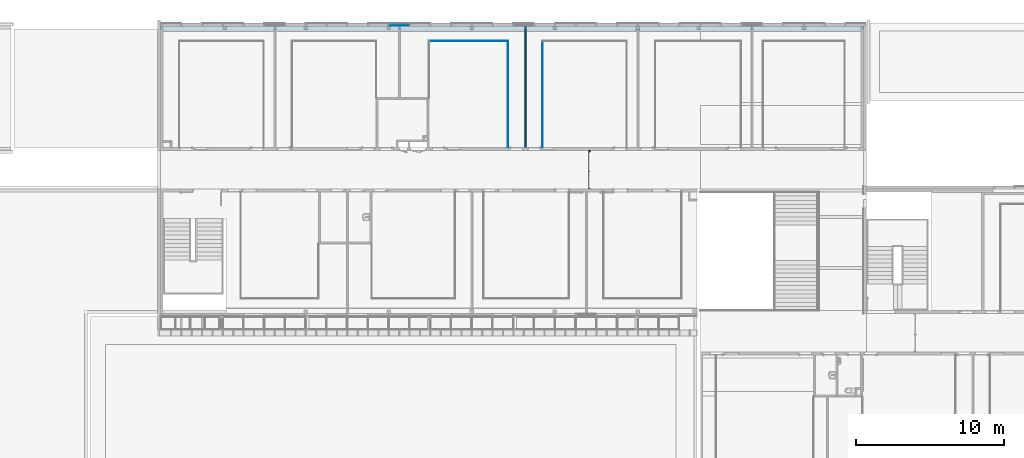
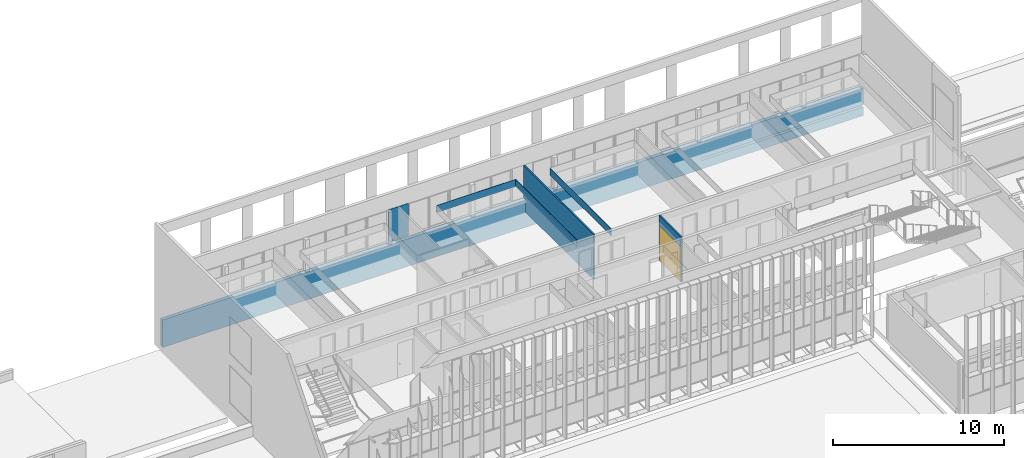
# One storey, part 62 of 106: 8 walls, 1 door, 1 opening.
"""IFC2X3 building model written with IfcOpenShell, lengths in centimetres."""

from ifc_helpers import new_model, entity, si_unit, converted_unit, derived_unit, direction, frame, frame_2d, origin, place, context, subcontext, project, spatial, polyline, rectangle, extrude, clip, bounded_halfspace, faceted_brep, source, transform, mapped, material, material_list, layer, layer_set, layer_usage, type_object, type_shapes, element, fill, save


model = new_model("IFC2X3")

# Units and contexts
model_context = context("Model", 3, precision=0.001, world=origin(), true_north=direction((6.12303176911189e-17, 1.0)))
body_context = subcontext(model_context, "Body", "Model", "MODEL_VIEW")
ifc_project = project(units=[si_unit("LENGTHUNIT", "METRE", prefix="CENTI"), si_unit("AREAUNIT", "SQUARE_METRE"), si_unit("VOLUMEUNIT", "CUBIC_METRE"), converted_unit("PLANEANGLEUNIT", "DEGREE", entity("IfcRatioMeasure", 0.0174532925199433), si_unit("PLANEANGLEUNIT", "RADIAN"), dimensions=[0, 0, 0, 0, 0, 0, 0]), si_unit("MASSUNIT", "GRAM", prefix="KILO"), derived_unit("MASSDENSITYUNIT", [(si_unit("MASSUNIT", "GRAM", prefix="KILO"), 1), (si_unit("LENGTHUNIT", "METRE"), -3)]), si_unit("TIMEUNIT", "SECOND"), si_unit("FREQUENCYUNIT", "HERTZ"), si_unit("THERMODYNAMICTEMPERATUREUNIT", "DEGREE_CELSIUS"), derived_unit("THERMALTRANSMITTANCEUNIT", [(si_unit("MASSUNIT", "GRAM", prefix="KILO"), 1), (si_unit("THERMODYNAMICTEMPERATUREUNIT", "KELVIN"), -1), (si_unit("TIMEUNIT", "SECOND"), -3)]), derived_unit("VOLUMETRICFLOWRATEUNIT", [(si_unit("LENGTHUNIT", "METRE"), 3), (si_unit("TIMEUNIT", "SECOND"), -1)]), si_unit("ELECTRICCURRENTUNIT", "AMPERE"), si_unit("ELECTRICVOLTAGEUNIT", "VOLT"), si_unit("POWERUNIT", "WATT"), si_unit("FORCEUNIT", "NEWTON", prefix="KILO"), si_unit("ILLUMINANCEUNIT", "LUX"), si_unit("LUMINOUSFLUXUNIT", "LUMEN"), si_unit("LUMINOUSINTENSITYUNIT", "CANDELA"), derived_unit("USERDEFINED", [(si_unit("MASSUNIT", "GRAM", prefix="KILO"), -1), (si_unit("LENGTHUNIT", "METRE"), -2), (si_unit("TIMEUNIT", "SECOND"), 3), (si_unit("LUMINOUSFLUXUNIT", "LUMEN"), 1)]), derived_unit("LINEARVELOCITYUNIT", [(si_unit("LENGTHUNIT", "METRE"), 1), (si_unit("TIMEUNIT", "SECOND"), -1)]), si_unit("PRESSUREUNIT", "PASCAL"), derived_unit("USERDEFINED", [(si_unit("LENGTHUNIT", "METRE"), -2), (si_unit("MASSUNIT", "GRAM", prefix="KILO"), 1), (si_unit("TIMEUNIT", "SECOND"), -2)])], contexts=[model_context])

# Site, building, storey
site_placement = place(None, frame((-2781.94577612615, 7442.24238424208, 0.0)))
site = spatial("IfcSite", under=ifc_project, at=site_placement, Name="Default", CompositionType="ELEMENT")
building_placement = place(site_placement, origin())
building = spatial("IfcBuilding", under=site, at=building_placement, CompositionType="ELEMENT")
storey_placement = place(building_placement, frame((0.0, 0.0, 422.0)))
storey = spatial("IfcBuildingStorey", under=building, at=storey_placement, Name="Toiture - Cuisine", CompositionType="ELEMENT", Elevation=421.999999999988)

# Walls
ifc_material_1 = material(Name="01 - Maçonnerie")
ifc_layer_1 = layer(ifc_material_1, 25.0)
ifc_layer_set_1 = layer_set([ifc_layer_1], Name="Mur de base:04 - Structure - béton - 25cm")
ifc_layer_usage_1 = layer_usage(ifc_layer_set_1, "AXIS2", "NEGATIVE", 12.5)
wall_type_1 = type_object("IfcWallType", Name="Mur de base:04 - Structure - béton - 25cm", PredefinedType="STANDARD", material=ifc_layer_set_1)
wall_1_placement = place(building_placement, frame((-8409.49987766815, -2.49999999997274, 313.0)))
element("IfcWallStandardCase", 1, at=wall_1_placement, inside=storey, type_object=wall_type_1, material=ifc_layer_usage_1, Name="Mur de base:04 - Structure - béton - 25cm", ObjectType="Mur de base:04 - Structure - béton - 25cm", context=body_context, shape_type="Clipping", body=[
    clip(extrude(rectangle(XDim=4741.49999798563, YDim=25.0, at=frame_2d((2370.74999899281, 0.0), x_axis=(-1.0, 0.0))), origin(), (0.0, 0.0, 1.0), 197.0), bounded_halfspace(frame((3641.50000006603, -12.4999999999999, 62.0), z_axis=(-1.0, 0.0, 0.0), x_axis=(0.0, 0.0, 1.0)), True, frame((3641.50000006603, -12.4999999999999, 62.0), z_axis=(-1.0, 0.0, 0.0), x_axis=(0.0, 0.0, 1.0)), polyline([(0.0, 0.0), (16.0, 0.0), (16.0, 25.0), (0.0, 25.0), (0.0, 0.0)]))),
])
ifc_material_2 = material(Name="01 - Enduit/Plâtre")
ifc_layer_2 = layer(ifc_material_2, 1.3)
ifc_material_3 = material(Name="00 - Isolant")
ifc_layer_3 = layer(ifc_material_3, 7.4)
ifc_layer_4 = layer(ifc_material_2, 1.3)
ifc_layer_set_2 = layer_set([ifc_layer_2, ifc_layer_3, ifc_layer_4], Name="Mur de base:06 - cloisons - Ba13 10cm")
ifc_layer_usage_2 = layer_usage(ifc_layer_set_2, "AXIS2", "NEGATIVE", 5.0)
wall_type_2 = type_object("IfcWallType", Name="Mur de base:06 - cloisons - Ba13 10cm", PredefinedType="STANDARD", material=ifc_layer_set_2)
wall_2_placement = place(building_placement, frame((-5948.79987968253, 10.0, 422.0), z_axis=(0.0, 0.0, 1.0), x_axis=(0.0, -1.0, 0.0)))
element("IfcWallStandardCase", 2, at=wall_2_placement, inside=storey, type_object=wall_type_2, material=ifc_layer_usage_2, Name="Mur de base:06 - cloisons - Ba13 10cm", ObjectType="Mur de base:06 - cloisons - Ba13 10cm", context=body_context, shape_type="Clipping", body=[
    clip(extrude(rectangle(XDim=820.048500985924, YDim=9.99999999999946, at=frame_2d((410.024250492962, 1.11022302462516e-14), x_axis=(-1.0, 0.0))), origin(), (0.0, 0.0, 1.0), 321.0), bounded_halfspace(frame((20.0, -5.0, 321.0), z_axis=(0.0, 0.0, -1.0), x_axis=(-1.0, 0.0, 0.0)), True, frame((20.0, -5.0, 321.0)), polyline([(0.0, 0.0), (800.048500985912, 0.0), (800.048500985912, 10.0), (0.0, 10.0), (0.0, 0.0)]))),
])

# Wall, opening, door
ifc_layer_usage_3 = layer_usage(ifc_layer_set_2, "AXIS2", "NEGATIVE", 5.0)
wall_3_placement = place(building_placement, frame((-5516.99987760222, -1090.0, 422.0), z_axis=(0.0, 0.0, 1.0), x_axis=(0.0, 1.0, 0.0)))
wall_3 = element("IfcWallStandardCase", 3, at=wall_3_placement, inside=storey, type_object=wall_type_2, material=ifc_layer_usage_3, Name="Mur de base:06 - cloisons - Ba13 10cm", ObjectType="Mur de base:06 - cloisons - Ba13 10cm", context=body_context, shape_type="SweptSolid", body=[
    extrude(rectangle(XDim=259.951498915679, YDim=9.99999999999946, at=frame_2d((129.97574945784, 0.0), x_axis=(-1.0, 0.0))), origin(), (0.0, 0.0, 1.0), 321.0),
])
opening_placement = place(wall_3_placement, frame((1.50000009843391, -5.0, 0.0)))
opening = element("IfcOpeningElement", 4, at=opening_placement, cuts=wall_3, Name="Int. Double:PV (2.50m x 2.04m):1", ObjectType="Opening", context=body_context, shape_type="SweptSolid", body=[
    extrude(rectangle(XDim=248.500000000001, YDim=250.0, at=frame_2d((124.250000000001, 125.0), x_axis=(1.0, 0.0))), frame((0.0, 0.0, 0.0), z_axis=(0.0, 1.0, 0.0), x_axis=(0.0, 0.0, 1.0)), (0.0, 0.0, 1.0), 10.0),
])
ifc_material_4 = material(Name="Bois - Panneau de porte")
ifc_material_5 = material(Name="Finition Peinture - Blanc satiné")
ifc_material_6 = material(Name="Bois - Cadre de porte")
ifc_material_list_1 = material_list([ifc_material_4, ifc_material_5, ifc_material_6])
ifc_material_list_2 = material_list([ifc_material_4, ifc_material_5, ifc_material_6])
door_style = type_object("IfcDoorStyle", Name="PV (2.50m x 2.04m)", ConstructionType="NOTDEFINED", OperationType="DOUBLE_DOOR_SINGLE_SWING", ParameterTakesPrecedence=False, Sizeable=False, material=ifc_material_list_2)
shared_shape = source(origin(), body_context, "Body", "Brep", [
    faceted_brep([(125.0, 4.0, 245.0), (125.0, 4.0, 0.0), (3.50000000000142, 4.0, 0.0), (3.50000000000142, 4.0, 245.0), (125.0, 0.0, 245.0), (3.50000000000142, 0.0, 245.0), (3.50000000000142, 0.0, 0.0), (125.0, 0.0, 0.0)], [[[0, 1, 2, 3]], [[4, 5, 6, 7]], [[3, 5, 4, 0]], [[2, 6, 5, 3]], [[1, 7, 6, 2]], [[0, 4, 7, 1]]]),
    faceted_brep([(132.035276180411, -0.500000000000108, 86.6003983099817), (133.0, -0.500000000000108, 87.0), (133.0, -0.500000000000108, 108.0), (132.035276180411, -0.500000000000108, 108.399601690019), (131.0, -0.500000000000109, 108.535898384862), (129.964723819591, -0.500000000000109, 108.399601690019), (129.0, -0.50000000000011, 108.0), (129.0, -0.50000000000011, 87.0), (129.964723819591, -0.500000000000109, 86.6003983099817), (131.0, -0.500000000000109, 86.464101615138), (132.035276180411, 0.0, 108.399601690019), (133.0, 0.0, 108.0), (133.0, 0.0, 87.0), (132.035276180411, 0.0, 86.6003983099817), (131.0, 0.0, 86.464101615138), (129.964723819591, 0.0, 86.6003983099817), (129.0, 0.0, 87.0), (129.0, 0.0, 108.0), (129.964723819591, 0.0, 108.399601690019), (131.0, 0.0, 108.535898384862)], [[[0, 1, 2, 3, 4, 5, 6, 7, 8, 9]], [[10, 11, 12, 13, 14, 15, 16, 17, 18, 19]], [[16, 15, 8, 7]], [[8, 15, 14, 9]], [[14, 13, 0, 9]], [[13, 12, 1, 0]], [[2, 1, 12, 11]], [[11, 10, 3, 2]], [[3, 10, 19, 4]], [[19, 18, 5, 4]], [[18, 17, 6, 5]], [[7, 6, 17, 16]]]),
    faceted_brep([(132.035276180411, 4.0, 86.6003983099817), (133.0, 4.0, 87.0), (133.0, 4.0, 108.0), (132.035276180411, 4.0, 108.399601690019), (131.0, 4.0, 108.535898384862), (129.964723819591, 4.0, 108.399601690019), (129.0, 4.0, 108.0), (129.0, 4.0, 87.0), (129.964723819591, 4.0, 86.6003983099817), (131.0, 4.0, 86.464101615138), (132.035276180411, 4.49999999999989, 108.399601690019), (133.0, 4.49999999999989, 108.0), (133.0, 4.49999999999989, 87.0), (132.035276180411, 4.49999999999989, 86.6003983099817), (131.0, 4.49999999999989, 86.464101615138), (129.964723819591, 4.49999999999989, 86.6003983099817), (129.0, 4.49999999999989, 87.0), (129.0, 4.49999999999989, 108.0), (129.964723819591, 4.49999999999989, 108.399601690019), (131.0, 4.49999999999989, 108.535898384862)], [[[0, 1, 2, 3, 4, 5, 6, 7, 8, 9]], [[10, 11, 12, 13, 14, 15, 16, 17, 18, 19]], [[11, 10, 3, 2]], [[3, 10, 19, 4]], [[19, 18, 5, 4]], [[18, 17, 6, 5]], [[7, 6, 17, 16]], [[16, 15, 8, 7]], [[8, 15, 14, 9]], [[14, 13, 0, 9]], [[13, 12, 1, 0]], [[2, 1, 12, 11]]]),
    faceted_brep([(130.797470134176, -0.500000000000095, 100.778044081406), (131.202529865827, -0.500000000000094, 100.778044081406), (131.600000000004, -0.500000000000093, 100.699999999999), (131.600000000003, -0.500000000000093, 99.3000000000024), (131.202529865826, -0.500000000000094, 99.2219559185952), (130.797470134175, -0.500000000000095, 99.221955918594), (130.399999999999, -0.500000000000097, 99.2999999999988), (130.399999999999, -0.500000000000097, 100.7), (130.399999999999, -3.26509507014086, 100.7), (130.797470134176, -3.10045754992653, 100.778044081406), (132.402358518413, -4.70534593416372, 100.778044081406), (132.570139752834, -4.30028620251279, 100.778044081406), (131.202529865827, -2.93267631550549, 100.778044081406), (131.600000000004, -2.76803879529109, 100.7), (131.600000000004, -2.76803879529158, 99.3000000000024), (131.202529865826, -2.93267631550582, 99.2219559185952), (132.570139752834, -4.30028620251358, 99.2219559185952), (132.402358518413, -4.7053459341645, 99.221955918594), (130.797470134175, -3.10045754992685, 99.221955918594), (130.399999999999, -3.26509507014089, 99.2999999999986), (132.237720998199, -5.10281606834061, 100.7), (132.734777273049, -3.90281606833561, 100.7), (132.734777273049, -3.90281606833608, 99.3000000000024), (132.237720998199, -5.10281606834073, 99.2999999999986), (141.001864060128, -5.10281606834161, 99.2999999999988), (141.001864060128, -4.70534593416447, 99.221955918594), (141.001864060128, -4.30028620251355, 99.2219559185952), (141.001864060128, -3.9028160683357, 99.3000000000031), (141.001864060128, -3.90281606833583, 100.7), (141.001864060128, -4.30028620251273, 100.778044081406), (141.001864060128, -4.70534593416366, 100.778044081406), (141.001864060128, -5.10281606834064, 100.699999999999), (136.230769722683, -5.10281606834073, 100.7), (136.78600190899, -4.50281606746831, 100.78786867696), (136.868320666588, -3.9028160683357, 100.7), (136.868320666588, -3.9028160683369, 99.3000000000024), (136.786001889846, -4.50281607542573, 99.2121313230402), (136.230770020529, -5.10281606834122, 99.2999999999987)], [[[0, 1, 2, 3, 4, 5, 6, 7]], [[8, 9, 0, 7]], [[9, 10, 11, 12, 1, 0]], [[12, 13, 2, 1]], [[3, 2, 13, 14]], [[14, 15, 4, 3]], [[15, 16, 17, 18, 5, 4]], [[18, 19, 6, 5]], [[7, 6, 19, 8]], [[20, 10, 9, 8]], [[11, 21, 13, 12]], [[14, 13, 21, 22]], [[22, 16, 15, 14]], [[17, 23, 19, 18]], [[8, 19, 23, 20]], [[24, 25, 26, 27, 28, 29, 30, 31]], [[32, 30, 33]], [[31, 30, 32]], [[10, 20, 32]], [[33, 34, 11]], [[21, 11, 34]], [[34, 29, 28]], [[30, 29, 33]], [[29, 34, 33]], [[10, 32, 33]], [[10, 33, 11]], [[22, 21, 34, 28, 27, 35]], [[35, 26, 36]], [[37, 36, 25]], [[22, 35, 16]], [[35, 27, 26]], [[24, 37, 25]], [[23, 17, 37]], [[37, 17, 36]], [[17, 16, 36]], [[16, 35, 36]], [[25, 36, 26]], [[20, 23, 37, 24, 31, 32]]]),
    faceted_brep([(130.797470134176, 4.4999999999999, 100.778044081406), (130.399999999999, 4.4999999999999, 100.7), (130.399999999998, 4.4999999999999, 99.2999999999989), (130.797470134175, 4.4999999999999, 99.221955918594), (131.202529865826, 4.4999999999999, 99.2219559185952), (131.600000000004, 4.49999999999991, 99.3000000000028), (131.600000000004, 4.49999999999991, 100.7), (131.202529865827, 4.4999999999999, 100.778044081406), (131.600000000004, 6.7485204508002, 99.3000000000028), (131.600000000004, 6.74852045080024, 100.7), (131.202529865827, 6.91315797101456, 100.778044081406), (132.583890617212, 8.29451872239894, 100.778044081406), (132.416109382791, 8.69957845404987, 100.778044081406), (130.797470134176, 7.08093920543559, 100.778044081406), (130.399999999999, 7.24557672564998, 100.7), (130.399999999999, 7.2455767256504, 99.2999999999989), (130.797470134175, 7.08093920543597, 99.221955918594), (132.41610938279, 8.69957845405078, 99.221955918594), (132.583890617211, 8.29451872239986, 99.2219559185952), (131.202529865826, 6.91315797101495, 99.2219559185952), (132.748528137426, 7.89704858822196, 99.3000000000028), (132.748528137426, 7.89704858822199, 100.7), (132.251471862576, 9.09704858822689, 100.7), (132.251471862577, 9.0970485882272, 99.2999999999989), (141.004578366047, 7.89704858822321, 99.3000000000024), (141.004578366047, 8.29451872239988, 99.2219559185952), (141.004578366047, 8.6995784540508, 99.221955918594), (141.004578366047, 9.09704858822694, 99.2999999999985), (141.004578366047, 9.09704858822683, 100.7), (141.004578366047, 8.69957845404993, 100.778044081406), (141.004578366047, 8.294518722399, 100.778044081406), (141.004578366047, 7.89704858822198, 100.7), (136.876552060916, 7.89704858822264, 99.3000000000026), (136.876553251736, 7.89704858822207, 100.7), (136.794234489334, 8.49704858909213, 100.78786867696), (136.244520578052, 9.09704858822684, 100.7), (136.244520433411, 9.09704858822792, 99.2999999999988), (136.794234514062, 8.49704858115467, 99.2121313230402)], [[[0, 1, 2, 3, 4, 5, 6, 7]], [[6, 5, 8, 9]], [[9, 10, 7, 6]], [[10, 11, 12, 13, 0, 7]], [[13, 14, 1, 0]], [[2, 1, 14, 15]], [[15, 16, 3, 2]], [[16, 17, 18, 19, 4, 3]], [[19, 8, 5, 4]], [[9, 8, 20, 21]], [[21, 11, 10, 9]], [[12, 22, 14, 13]], [[15, 14, 22, 23]], [[23, 17, 16, 15]], [[18, 20, 8, 19]], [[24, 25, 26, 27, 28, 29, 30, 31]], [[21, 20, 32, 24, 31, 33]], [[33, 30, 34]], [[35, 34, 29]], [[21, 33, 11]], [[33, 31, 30]], [[28, 35, 29]], [[22, 12, 35]], [[35, 12, 34]], [[12, 11, 34]], [[11, 33, 34]], [[29, 34, 30]], [[22, 35, 28, 27, 36, 23]], [[36, 26, 37]], [[27, 26, 36]], [[17, 23, 36]], [[37, 32, 18]], [[20, 18, 32]], [[32, 25, 24]], [[26, 25, 37]], [[25, 32, 37]], [[17, 36, 37]], [[17, 37, 18]]]),
    faceted_brep([(125.0, 4.0, 245.0), (246.500000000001, 4.0, 245.0), (246.500000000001, 4.0, 0.0), (125.0, 4.0, 0.0), (125.0, 0.0, 245.0), (125.0, 0.0, 0.0), (246.500000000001, 0.0, 0.0), (246.500000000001, 0.0, 245.0)], [[[0, 1, 2, 3]], [[4, 5, 6, 7]], [[1, 0, 4, 7]], [[2, 1, 7, 6]], [[3, 2, 6, 5]], [[0, 3, 5, 4]]]),
    faceted_brep([(0.0, 0.0, 0.0), (0.0, 10.0, 0.0), (5.0, 10.0, 0.0), (5.0, 4.0, 0.0), (3.50000000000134, 4.0, 0.0), (3.50000000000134, 0.0, 0.0), (0.0, 0.0, 248.500000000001), (0.0, 10.0, 248.500000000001), (250.0, 10.0, 248.500000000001), (250.0, 10.0, 0.0), (245.0, 10.0, 0.0), (245.0, 10.0, 243.5), (5.0, 10.0, 243.5), (5.0, 4.0, 243.5), (245.0, 4.0, 243.5), (245.0, 4.0, 0.0), (246.499999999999, 4.0, 0.0), (246.499999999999, 4.0, 245.0), (3.50000000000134, 4.0, 245.0), (3.50000000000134, 0.0, 245.0), (246.499999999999, 0.0, 245.0), (246.499999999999, 0.0, 0.0), (250.0, 0.0, 0.0), (250.0, 0.0, 248.500000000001)], [[[0, 1, 2, 3, 4, 5]], [[1, 0, 6, 7]], [[2, 1, 7, 8, 9, 10, 11, 12]], [[3, 2, 12, 13]], [[4, 3, 13, 14, 15, 16, 17, 18]], [[5, 4, 18, 19]], [[0, 5, 19, 20, 21, 22, 23, 6]], [[8, 23, 22, 9]], [[22, 21, 16, 15, 10, 9]], [[14, 11, 10, 15]], [[20, 17, 16, 21]], [[7, 6, 23, 8]], [[13, 12, 11, 14]], [[19, 18, 17, 20]]]),
    faceted_brep([(1.50000000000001, 10.0, 0.0), (-1.50000000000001, 10.0, 0.0), (-1.50000000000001, 10.5000000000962, 0.0), (1.50000000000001, 10.5000000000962, 0.0), (1.49999999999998, 10.0, 247.0), (248.5, 10.0, 247.0), (248.5, 10.0, 0.0), (251.5, 10.0, 0.0), (251.5, 10.0, 250.0), (-1.50000000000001, 10.0, 250.0), (-1.50000000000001, 10.5000000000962, 250.0), (251.5, 10.5000000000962, 250.0), (251.5, 10.5000000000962, 0.0), (248.5, 10.5000000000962, 0.0), (248.5, 10.5000000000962, 247.0), (1.50000000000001, 10.5000000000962, 247.0)], [[[0, 1, 2, 3]], [[1, 0, 4, 5, 6, 7, 8, 9]], [[2, 1, 9, 10]], [[3, 2, 10, 11, 12, 13, 14, 15]], [[0, 3, 15, 4]], [[5, 14, 13, 6]], [[6, 13, 12, 7]], [[11, 8, 7, 12]], [[10, 9, 8, 11]], [[4, 15, 14, 5]]]),
    faceted_brep([(-1.50000000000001, -0.500000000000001, 0.0), (1.50000000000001, -0.500000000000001, 0.0), (1.49999999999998, -0.500000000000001, 247.0), (248.5, -0.500000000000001, 247.0), (248.5, -0.500000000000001, 0.0), (251.5, -0.500000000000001, 0.0), (251.5, -0.500000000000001, 250.0), (-1.50000000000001, -0.500000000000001, 250.0), (-1.50000000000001, 0.0, 0.0), (-1.50000000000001, 0.0, 250.0), (1.50000000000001, 0.0, 0.0), (251.5, 0.0, 250.0), (251.5, 0.0, 0.0), (248.5, 0.0, 0.0), (248.5, 0.0, 247.0), (1.50000000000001, 0.0, 247.0)], [[[0, 1, 2, 3, 4, 5, 6, 7]], [[8, 0, 7, 9]], [[10, 8, 9, 11, 12, 13, 14, 15]], [[1, 10, 15, 2]], [[3, 14, 13, 4]], [[11, 6, 5, 12]], [[9, 7, 6, 11]], [[2, 15, 14, 3]], [[4, 13, 12, 5]], [[1, 0, 8, 10]]]),
])
type_shapes(door_style, [shared_shape])
door_placement = place(opening_placement, frame((250.0, 10.0, 0.0), z_axis=(0.0, 0.0, 1.0), x_axis=(-1.0, 0.0, 0.0)))
door = element("IfcDoor", 5, at=door_placement, inside=storey, type_object=door_style, material=ifc_material_list_1, Name="Int. Double:PV (2.50m x 2.04m)", ObjectType="Int. Double:PV (2.50m x 2.04m)", OverallHeight=248.500000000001, OverallWidth=250.0, context=body_context, shape_type="MappedRepresentation", body=[
    mapped(shared_shape, transform((0.0, 0.0, 0.0), scale=1.0)),
])
fill(opening, door)

# Walls
ifc_layer_5 = layer(ifc_material_2, 1.3)
ifc_material_7 = material(Name="00 - VIDE D'AIR")
ifc_layer_6 = layer(ifc_material_7, 0.7)
ifc_layer_set_3 = layer_set([ifc_layer_5, ifc_layer_6], Name="Mur de base:06 - habillage Ba13 collée 2cm")
ifc_layer_usage_4 = layer_usage(ifc_layer_set_3, "AXIS2", "POSITIVE", -1.0)
wall_type_3 = type_object("IfcWallType", Name="Mur de base:06 - habillage Ba13 collée 2cm", PredefinedType="STANDARD", material=ifc_layer_set_3)
wall_4_placement = place(building_placement, frame((-6063.79987968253, -91.0, 692.0), z_axis=(0.0, 0.0, 1.0), x_axis=(-1.0, 0.0, 0.0)))
element("IfcWallStandardCase", 6, at=wall_4_placement, inside=storey, type_object=wall_type_3, material=ifc_layer_usage_4, Name="Mur de base:06 - habillage Ba13 collée 2cm", ObjectType="Mur de base:06 - habillage Ba13 collée 2cm", context=body_context, shape_type="Clipping", body=[
    clip(extrude(rectangle(XDim=536.0, YDim=2.00000000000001, at=frame_2d((268.0, -2.22044604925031e-16), x_axis=(-1.0, 0.0))), origin(), (0.0, 0.0, 1.0), 50.9999999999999), bounded_halfspace(frame((0.0, -1.0, 51.0), z_axis=(0.0, 0.0, -1.0), x_axis=(0.0, -1.0, 0.0)), True, frame((0.0, -1.0, 51.0)), polyline([(0.0, 0.0), (536.0, 0.0), (536.0, 2.0), (534.0, 2.0), (2.0, 2.0), (0.0, 2.0), (0.0, 0.0)]))),
])
ifc_layer_usage_5 = layer_usage(ifc_layer_set_3, "AXIS2", "POSITIVE", -1.0)
wall_5_placement = place(building_placement, frame((-5832.79987968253, -92.0, 692.0), z_axis=(0.0, 0.0, 1.0), x_axis=(0.0, -1.0, 0.0)))
element("IfcWallStandardCase", 7, at=wall_5_placement, inside=storey, type_object=wall_type_3, material=ifc_layer_usage_5, Name="Mur de base:06 - habillage Ba13 collée 2cm", ObjectType="Mur de base:06 - habillage Ba13 collée 2cm", context=body_context, shape_type="Clipping", body=[
    clip(extrude(rectangle(XDim=718.048500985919, YDim=1.99999999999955, at=frame_2d((359.02425049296, -5.93969318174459e-15), x_axis=(-1.0, 0.0))), origin(), (0.0, 0.0, 1.0), 50.9999999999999), bounded_halfspace(frame((0.0, -1.0, 51.0), z_axis=(0.0, 0.0, -1.0), x_axis=(-1.0, 0.0, 0.0)), True, frame((0.0, -1.0, 51.0)), polyline([(0.0, 0.0), (718.048500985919, 0.0), (718.048500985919, 2.0), (0.0, 2.0), (0.0, 0.0)]))),
])
ifc_layer_usage_6 = layer_usage(ifc_layer_set_3, "AXIS2", "POSITIVE", -1.0)
wall_6_placement = place(building_placement, frame((-6064.79987968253, -810.0485009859, 692.0), z_axis=(0.0, 0.0, 1.0), x_axis=(0.0, 1.0, 0.0)))
element("IfcWallStandardCase", 8, at=wall_6_placement, inside=storey, type_object=wall_type_3, material=ifc_layer_usage_6, Name="Mur de base:06 - habillage Ba13 collée 2cm", ObjectType="Mur de base:06 - habillage Ba13 collée 2cm", context=body_context, shape_type="Clipping", body=[
    clip(extrude(rectangle(XDim=718.048500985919, YDim=1.99999999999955, at=frame_2d((359.02425049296, 2.07722727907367e-13), x_axis=(-1.0, 0.0))), origin(), (0.0, 0.0, 1.0), 50.9999999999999), bounded_halfspace(frame((0.0, -1.0, 51.0), z_axis=(0.0, 0.0, -1.0), x_axis=(1.0, 0.0, 0.0)), True, frame((0.0, -1.0, 51.0)), polyline([(0.0, 0.0), (718.048500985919, 0.0), (718.048500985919, 2.0), (0.0, 2.0), (0.0, 0.0)]))),
])
ifc_material_8 = material(Name="Métal déployé")
ifc_layer_7 = layer(ifc_material_8, 0.3)
ifc_material_9 = material(Name="Métal - Alu brossé")
ifc_layer_8 = layer(ifc_material_9, 1.7)
ifc_layer_set_4 = layer_set([ifc_layer_7, ifc_layer_8], Name="Mur de base:07 -Tôle alu sur CP")
ifc_layer_usage_7 = layer_usage(ifc_layer_set_4, "AXIS2", "NEGATIVE", 1.0)
wall_type_4 = type_object("IfcWallType", Name="Mur de base:07 -Tôle alu sur CP", PredefinedType="STANDARD", material=ifc_layer_set_4)
wall_7_placement = place(building_placement, frame((-6732.75004159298, 11.7000000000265, 512.0), z_axis=(0.0, 0.0, 1.0), x_axis=(-1.0, 0.0, 0.0)))
element("IfcWallStandardCase", 9, at=wall_7_placement, inside=storey, type_object=wall_type_4, material=ifc_layer_usage_7, Name="Mur de base:07 -Tôle alu sur CP", ObjectType="Mur de base:07 -Tôle alu sur CP", context=body_context, shape_type="SweptSolid", body=[
    extrude(rectangle(XDim=133.5, YDim=2.0, at=frame_2d((66.75, 0.0), x_axis=(-1.0, 0.0))), origin(), (0.0, 0.0, 1.0), 231.0),
])
ifc_layer_9 = layer(ifc_material_8, 0.3)
ifc_material_10 = material(Name="00 - Isolant polystyrène")
ifc_layer_10 = layer(ifc_material_10, 4.0)
ifc_layer_set_5 = layer_set([ifc_layer_9, ifc_layer_10], Name="Mur de base:07 -Tôle alu Shadowbox")
ifc_layer_usage_8 = layer_usage(ifc_layer_set_5, "AXIS2", "POSITIVE", -2.15)
wall_type_5 = type_object("IfcWallType", Name="Mur de base:07 -Tôle alu Shadowbox", PredefinedType="STANDARD", material=ifc_layer_set_5)
wall_8_placement = place(building_placement, frame((-6732.75004159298, 14.8500000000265, 512.618750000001), z_axis=(0.0, 0.0, 1.0), x_axis=(-1.0, 0.0, 0.0)))
element("IfcWallStandardCase", 10, at=wall_8_placement, inside=storey, type_object=wall_type_5, material=ifc_layer_usage_8, Name="Mur de base:07 -Tôle alu Shadowbox", ObjectType="Mur de base:07 -Tôle alu Shadowbox", context=body_context, shape_type="SweptSolid", body=[
    extrude(rectangle(XDim=133.5, YDim=4.3, at=frame_2d((66.75, 0.0), x_axis=(-1.0, 0.0))), origin(), (0.0, 0.0, 1.0), 230.381249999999),
])

save(model, "model.ifc")
